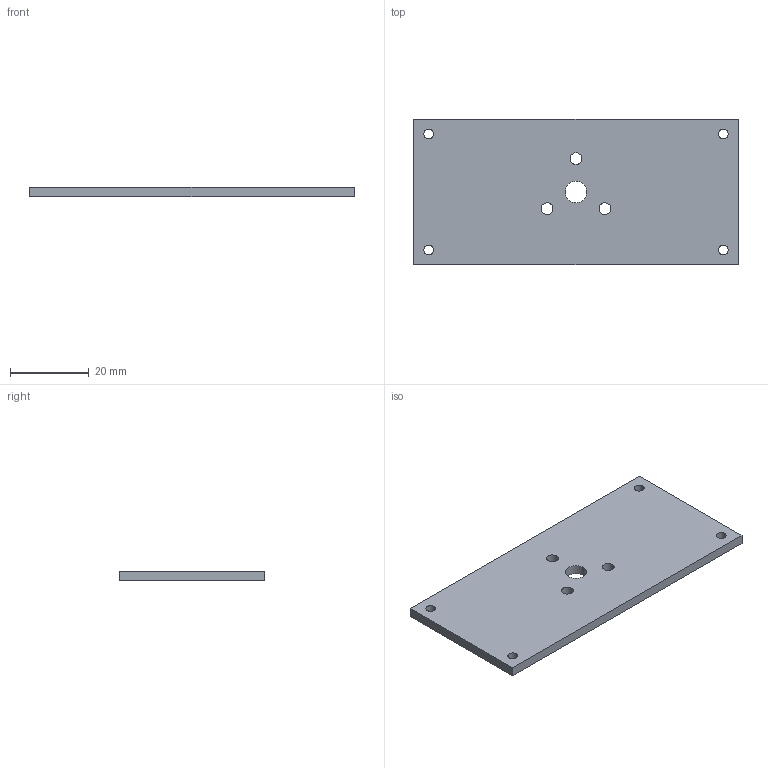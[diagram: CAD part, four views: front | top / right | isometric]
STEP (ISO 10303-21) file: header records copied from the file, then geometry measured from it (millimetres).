
FILE_DESCRIPTION (( 'STEP AP203' ), '1' );
FILE_NAME ('Gimbal Motor Atch. Plate v1.STEP', '2016-10-20T20:50:04', ( 'drhyoo' ), ( '' ), 'SwSTEP 2.0', 'SolidWorks 2016', '' );
FILE_SCHEMA (( 'CONFIG_CONTROL_DESIGN' ));
Length unit declared in the file: millimetre
Products named in the file (1): Gimbal Motor Atch. Plate v1
Bounding box: 82.5 x 37 x 2.5 mm (x, y, z)
Volume: 7469.8 mm3; surface area: 6765.7 mm2
Topology: 1 solids, 1 shells, 22 faces, 60 edges, 40 vertices
Faces by surface type: cylinder 16, plane 6
Entity records: 825 total; most frequent: DIRECTION 138, CARTESIAN_POINT 123, ORIENTED_EDGE 120, EDGE_CURVE 60, AXIS2_PLACEMENT_3D 55, VERTEX_POINT 40, EDGE_LOOP 38, CIRCLE 32
